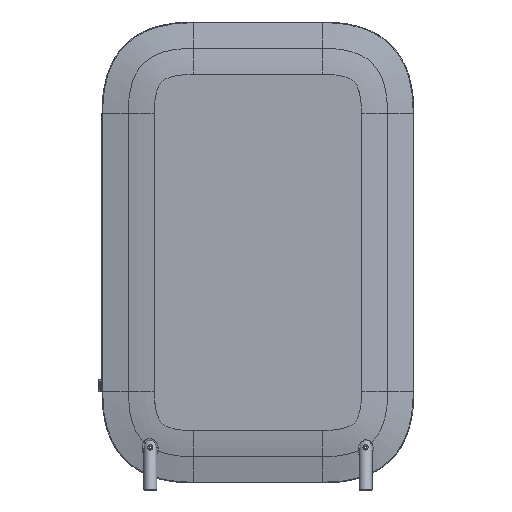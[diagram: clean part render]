
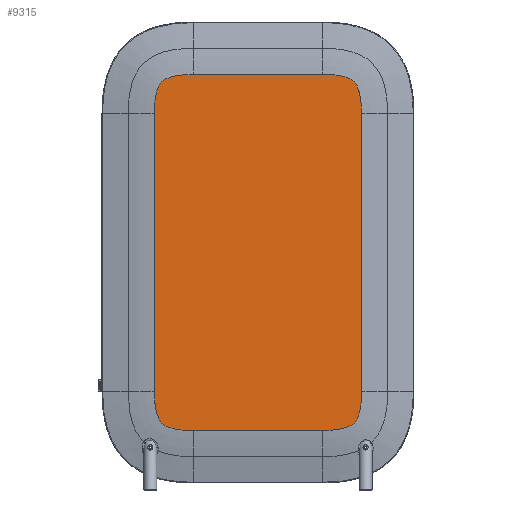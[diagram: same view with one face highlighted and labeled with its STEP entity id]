
A CAD part, left-side view. The second image highlights one B-rep face of the part: STEP entity #9315.
In plain terms, the highlighted planar face has unit normal (-1, 0, 0).
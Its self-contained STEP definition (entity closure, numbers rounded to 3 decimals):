
#294=B_SPLINE_CURVE_WITH_KNOTS('',3,(#17651,#17652,#17653,#17654,#17655,
#17656,#17657,#17658,#17659,#17660,#17661,#17662,#17663,#17664,#17665,#17666,
#17667),.UNSPECIFIED.,.F.,.F.,(4,1,1,1,1,1,1,1,1,1,1,1,1,1,4),(-20.618,
-19.145,-17.673,-16.2,-14.727,
-13.254,-11.782,-9.818,-8.836,
-7.854,-5.891,-4.418,-2.945,
-1.473,0.),.UNSPECIFIED.);
#295=B_SPLINE_CURVE_WITH_KNOTS('',3,(#17671,#17672,#17673,#17674,#17675,
#17676,#17677,#17678,#17679,#17680,#17681,#17682,#17683,#17684,#17685,#17686,
#17687,#17688),.UNSPECIFIED.,.F.,.F.,(4,1,1,1,1,1,1,1,1,1,1,1,1,1,1,4),
(-20.618,-19.145,-17.673,-16.2,
-14.727,-13.254,-11.782,-10.8,
-9.818,-8.836,-6.873,-5.891,
-4.418,-2.945,-1.473,0.),.UNSPECIFIED.);
#296=B_SPLINE_CURVE_WITH_KNOTS('',3,(#17692,#17693,#17694,#17695,#17696,
#17697,#17698,#17699,#17700,#17701,#17702,#17703,#17704,#17705,#17706,#17707,
#17708,#17709),.UNSPECIFIED.,.F.,.F.,(4,1,1,1,1,1,1,1,1,1,1,1,1,1,1,4),
(-20.618,-19.145,-17.673,-16.2,
-14.727,-13.254,-11.782,-10.8,
-9.818,-8.836,-6.873,-5.891,
-4.418,-2.945,-1.473,0.),.UNSPECIFIED.);
#297=B_SPLINE_CURVE_WITH_KNOTS('',3,(#17713,#17714,#17715,#17716,#17717,
#17718,#17719,#17720,#17721,#17722,#17723,#17724,#17725,#17726,#17727,#17728,
#17729,#17730),.UNSPECIFIED.,.F.,.F.,(4,1,1,1,1,1,1,1,1,1,1,1,1,1,1,4),
(-20.618,-19.145,-17.673,-16.2,
-14.727,-13.254,-11.782,-10.8,
-9.818,-8.836,-6.873,-5.891,
-4.418,-2.945,-1.473,0.),.UNSPECIFIED.);
#1194=PLANE('',#9934);
#1574=FACE_OUTER_BOUND('',#2157,.T.);
#2157=EDGE_LOOP('',(#7955,#7956,#7957,#7958,#7959,#7960,#7961,#7962));
#2914=LINE('',#17669,#3585);
#2915=LINE('',#17690,#3586);
#2916=LINE('',#17711,#3587);
#2917=LINE('',#17731,#3588);
#3585=VECTOR('',#11376,10.);
#3586=VECTOR('',#11377,10.);
#3587=VECTOR('',#11378,10.);
#3588=VECTOR('',#11379,10.);
#4489=VERTEX_POINT('',#17649);
#4490=VERTEX_POINT('',#17650);
#4491=VERTEX_POINT('',#17668);
#4492=VERTEX_POINT('',#17670);
#4493=VERTEX_POINT('',#17689);
#4494=VERTEX_POINT('',#17691);
#4495=VERTEX_POINT('',#17710);
#4496=VERTEX_POINT('',#17712);
#5665=EDGE_CURVE('',#4489,#4490,#294,.T.);
#5666=EDGE_CURVE('',#4490,#4491,#2914,.F.);
#5667=EDGE_CURVE('',#4491,#4492,#295,.T.);
#5668=EDGE_CURVE('',#4492,#4493,#2915,.F.);
#5669=EDGE_CURVE('',#4493,#4494,#296,.T.);
#5670=EDGE_CURVE('',#4494,#4495,#2916,.F.);
#5671=EDGE_CURVE('',#4495,#4496,#297,.T.);
#5672=EDGE_CURVE('',#4496,#4489,#2917,.F.);
#7955=ORIENTED_EDGE('',*,*,#5665,.T.);
#7956=ORIENTED_EDGE('',*,*,#5666,.T.);
#7957=ORIENTED_EDGE('',*,*,#5667,.T.);
#7958=ORIENTED_EDGE('',*,*,#5668,.T.);
#7959=ORIENTED_EDGE('',*,*,#5669,.T.);
#7960=ORIENTED_EDGE('',*,*,#5670,.T.);
#7961=ORIENTED_EDGE('',*,*,#5671,.T.);
#7962=ORIENTED_EDGE('',*,*,#5672,.T.);
#9315=ADVANCED_FACE('',(#1574),#1194,.T.);
#9934=AXIS2_PLACEMENT_3D('',#17648,#11374,#11375);
#11374=DIRECTION('center_axis',(-1.,0.,0.));
#11375=DIRECTION('ref_axis',(0.,-1.,0.));
#11376=DIRECTION('',(0.,1.,0.));
#11377=DIRECTION('',(0.,0.,-1.));
#11378=DIRECTION('',(0.,-1.,0.));
#11379=DIRECTION('',(0.,0.,1.));
#17648=CARTESIAN_POINT('Origin',(-49.,-151.,35.5));
#17649=CARTESIAN_POINT('',(-49.,248.046,-500.));
#17650=CARTESIAN_POINT('',(-49.,98.,-650.046));
#17651=CARTESIAN_POINT('Ctrl Pts',(-49.,248.046,-500.));
#17652=CARTESIAN_POINT('Ctrl Pts',(-49.,248.046,-512.725));
#17653=CARTESIAN_POINT('Ctrl Pts',(-49.,247.117,-535.687));
#17654=CARTESIAN_POINT('Ctrl Pts',(-49.,243.623,-562.853));
#17655=CARTESIAN_POINT('Ctrl Pts',(-49.,238.858,-583.35));
#17656=CARTESIAN_POINT('Ctrl Pts',(-49.,233.616,-598.107));
#17657=CARTESIAN_POINT('Ctrl Pts',(-49.,228.496,-608.364));
#17658=CARTESIAN_POINT('Ctrl Pts',(-49.,223.138,-616.324));
#17659=CARTESIAN_POINT('Ctrl Pts',(-49.,218.421,-621.444));
#17660=CARTESIAN_POINT('Ctrl Pts',(-49.,213.372,-625.691));
#17661=CARTESIAN_POINT('Ctrl Pts',(-49.,207.253,-629.942));
#17662=CARTESIAN_POINT('Ctrl Pts',(-49.,197.748,-635.029));
#17663=CARTESIAN_POINT('Ctrl Pts',(-49.,181.349,-640.86));
#17664=CARTESIAN_POINT('Ctrl Pts',(-49.,160.853,-645.623));
#17665=CARTESIAN_POINT('Ctrl Pts',(-49.,133.687,-649.117));
#17666=CARTESIAN_POINT('Ctrl Pts',(-49.,110.725,-650.046));
#17667=CARTESIAN_POINT('Ctrl Pts',(-49.,98.,-650.046));
#17668=CARTESIAN_POINT('',(-49.,-400.,-650.046));
#17669=CARTESIAN_POINT('',(-49.,-151.,-650.046));
#17670=CARTESIAN_POINT('',(-49.,-550.046,-500.));
#17671=CARTESIAN_POINT('Ctrl Pts',(-49.,-400.,
-650.046));
#17672=CARTESIAN_POINT('Ctrl Pts',(-49.,-412.725,
-650.046));
#17673=CARTESIAN_POINT('Ctrl Pts',(-49.,-435.687,
-649.116));
#17674=CARTESIAN_POINT('Ctrl Pts',(-49.,-462.854,
-645.624));
#17675=CARTESIAN_POINT('Ctrl Pts',(-49.,-483.349,
-640.858));
#17676=CARTESIAN_POINT('Ctrl Pts',(-49.,-498.108,
-635.618));
#17677=CARTESIAN_POINT('Ctrl Pts',(-49.,-508.361,
-630.493));
#17678=CARTESIAN_POINT('Ctrl Pts',(-49.,-514.735,
-626.214));
#17679=CARTESIAN_POINT('Ctrl Pts',(-49.,-519.161,
-622.51));
#17680=CARTESIAN_POINT('Ctrl Pts',(-49.,-522.511,
-619.164));
#17681=CARTESIAN_POINT('Ctrl Pts',(-49.,-526.736,
-614.101));
#17682=CARTESIAN_POINT('Ctrl Pts',(-49.,-531.049,
-607.472));
#17683=CARTESIAN_POINT('Ctrl Pts',(-49.,-536.203,
-596.47));
#17684=CARTESIAN_POINT('Ctrl Pts',(-49.,-540.857,
-583.349));
#17685=CARTESIAN_POINT('Ctrl Pts',(-49.,-545.626,-562.853));
#17686=CARTESIAN_POINT('Ctrl Pts',(-49.,-549.116,-535.687));
#17687=CARTESIAN_POINT('Ctrl Pts',(-49.,-550.046,
-512.725));
#17688=CARTESIAN_POINT('Ctrl Pts',(-49.,-550.046,
-500.));
#17689=CARTESIAN_POINT('',(-49.,-550.046,571.));
#17690=CARTESIAN_POINT('',(-49.,-550.046,-500.));
#17691=CARTESIAN_POINT('',(-49.,-400.,721.046));
#17692=CARTESIAN_POINT('Ctrl Pts',(-49.,-550.046,
571.));
#17693=CARTESIAN_POINT('Ctrl Pts',(-49.,-550.046,
583.725));
#17694=CARTESIAN_POINT('Ctrl Pts',(-49.,-549.116,
606.687));
#17695=CARTESIAN_POINT('Ctrl Pts',(-49.,-545.624,
633.853));
#17696=CARTESIAN_POINT('Ctrl Pts',(-49.,-540.858,
654.349));
#17697=CARTESIAN_POINT('Ctrl Pts',(-49.,-535.618,
669.108));
#17698=CARTESIAN_POINT('Ctrl Pts',(-49.,-530.493,
679.361));
#17699=CARTESIAN_POINT('Ctrl Pts',(-49.,-526.214,
685.735));
#17700=CARTESIAN_POINT('Ctrl Pts',(-49.,-522.51,
690.161));
#17701=CARTESIAN_POINT('Ctrl Pts',(-49.,-519.164,
693.511));
#17702=CARTESIAN_POINT('Ctrl Pts',(-49.,-514.101,
697.736));
#17703=CARTESIAN_POINT('Ctrl Pts',(-49.,-507.472,
702.049));
#17704=CARTESIAN_POINT('Ctrl Pts',(-49.,-496.47,707.203));
#17705=CARTESIAN_POINT('Ctrl Pts',(-49.,-483.349,
711.857));
#17706=CARTESIAN_POINT('Ctrl Pts',(-49.,-462.853,716.626));
#17707=CARTESIAN_POINT('Ctrl Pts',(-49.,-435.687,
720.116));
#17708=CARTESIAN_POINT('Ctrl Pts',(-49.,-412.725,
721.046));
#17709=CARTESIAN_POINT('Ctrl Pts',(-49.,-400.,
721.046));
#17710=CARTESIAN_POINT('',(-49.,98.,721.046));
#17711=CARTESIAN_POINT('',(-49.,-400.,721.046));
#17712=CARTESIAN_POINT('',(-49.,248.046,571.));
#17713=CARTESIAN_POINT('Ctrl Pts',(-49.,98.,721.046));
#17714=CARTESIAN_POINT('Ctrl Pts',(-49.,110.725,721.046));
#17715=CARTESIAN_POINT('Ctrl Pts',(-49.,133.687,720.116));
#17716=CARTESIAN_POINT('Ctrl Pts',(-49.,160.854,716.624));
#17717=CARTESIAN_POINT('Ctrl Pts',(-49.,181.349,711.858));
#17718=CARTESIAN_POINT('Ctrl Pts',(-49.,196.108,706.618));
#17719=CARTESIAN_POINT('Ctrl Pts',(-49.,206.361,701.493));
#17720=CARTESIAN_POINT('Ctrl Pts',(-49.,212.735,697.214));
#17721=CARTESIAN_POINT('Ctrl Pts',(-49.,217.161,693.51));
#17722=CARTESIAN_POINT('Ctrl Pts',(-49.,220.511,690.164));
#17723=CARTESIAN_POINT('Ctrl Pts',(-49.,224.736,685.101));
#17724=CARTESIAN_POINT('Ctrl Pts',(-49.,229.049,678.472));
#17725=CARTESIAN_POINT('Ctrl Pts',(-49.,234.203,667.47));
#17726=CARTESIAN_POINT('Ctrl Pts',(-49.,238.857,654.349));
#17727=CARTESIAN_POINT('Ctrl Pts',(-49.,243.625,633.853));
#17728=CARTESIAN_POINT('Ctrl Pts',(-49.,247.116,606.687));
#17729=CARTESIAN_POINT('Ctrl Pts',(-49.,248.046,583.725));
#17730=CARTESIAN_POINT('Ctrl Pts',(-49.,248.046,571.));
#17731=CARTESIAN_POINT('',(-49.,248.046,571.));
